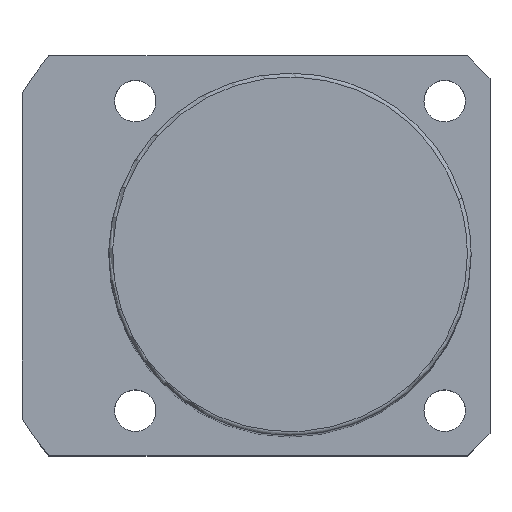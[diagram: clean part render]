
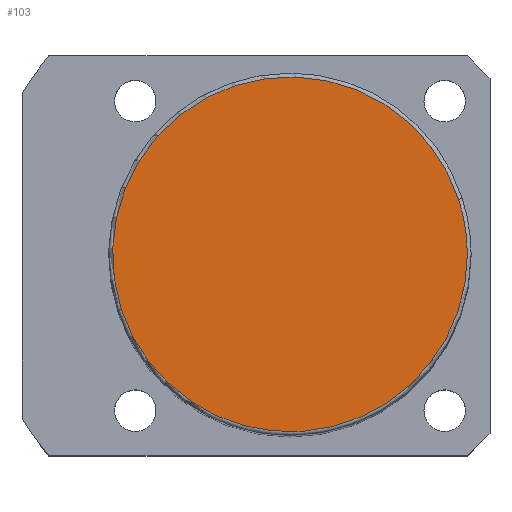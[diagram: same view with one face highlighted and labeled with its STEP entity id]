
A CAD part, top view. The second image highlights one B-rep face of the part: STEP entity #103.
In plain terms, the highlighted planar face has unit normal (0, 0, 1).
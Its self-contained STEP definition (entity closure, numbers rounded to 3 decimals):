
#16=CARTESIAN_POINT('',(-22.35,-7.262,129.0));
#17=VERTEX_POINT('',#16);
#54=CARTESIAN_POINT('',(22.35,7.262,129.0));
#55=VERTEX_POINT('',#54);
#63=CARTESIAN_POINT('',(23.5,0.0,129.0));
#64=VERTEX_POINT('',#63);
#65=CARTESIAN_POINT('',(0.0,0.0,129.0));
#66=DIRECTION('',(0.0,0.0,1.0));
#67=DIRECTION('',(1.0,0.0,0.0));
#68=AXIS2_PLACEMENT_3D('',#65,#66,#67);
#69=CIRCLE('',#68,23.5);
#70=EDGE_CURVE('no 898',#64,#55,#69,.T.);
#72=CARTESIAN_POINT('',(0.0,0.0,129.0));
#73=DIRECTION('',(0.0,0.0,1.0));
#74=DIRECTION('',(1.0,0.0,0.0));
#75=AXIS2_PLACEMENT_3D('',#72,#73,#74);
#76=CIRCLE('',#75,23.5);
#77=EDGE_CURVE('no 902',#17,#64,#76,.T.);
#87=ORIENTED_EDGE('',*,*,#70,.T.);
#88=CARTESIAN_POINT('',(0.0,0.0,129.0));
#89=DIRECTION('',(0.0,0.0,1.0));
#90=DIRECTION('',(1.0,0.0,0.0));
#91=AXIS2_PLACEMENT_3D('',#88,#89,#90);
#92=CIRCLE('',#91,23.5);
#93=EDGE_CURVE('no 911',#55,#17,#92,.T.);
#94=ORIENTED_EDGE('',*,*,#93,.T.);
#95=ORIENTED_EDGE('',*,*,#77,.T.);
#96=EDGE_LOOP('',(#87,#94,#95));
#97=FACE_OUTER_BOUND('',#96,.T.);
#98=CARTESIAN_POINT('',(0.0,0.0,129.0));
#99=DIRECTION('',(0.0,0.0,1.0));
#100=DIRECTION('',(1.0,0.0,0.0));
#101=AXIS2_PLACEMENT_3D('',#98,#99,#100);
#102=PLANE('',#101);
#103=ADVANCED_FACE('no 904',(#97),#102,.T.);
